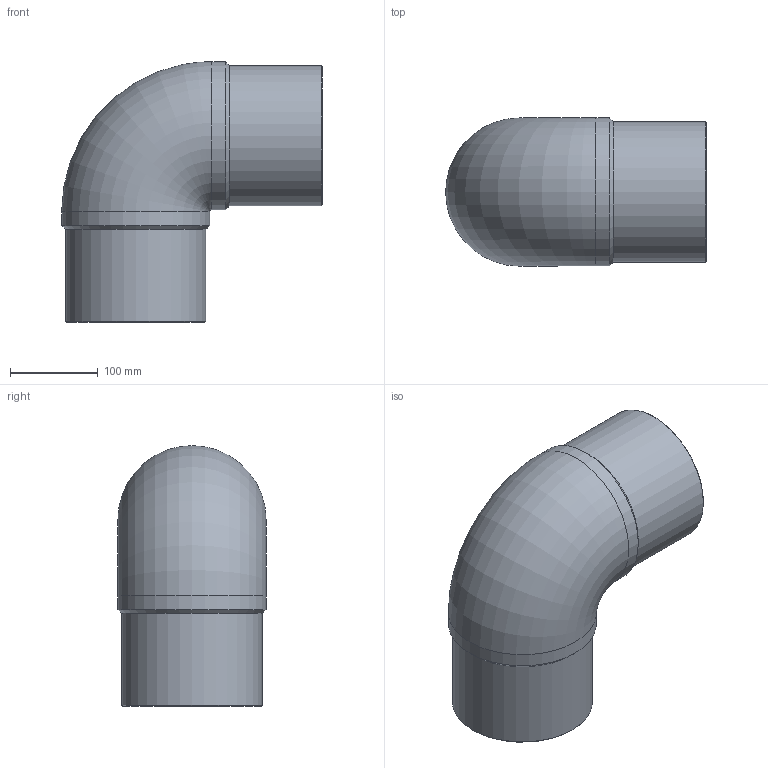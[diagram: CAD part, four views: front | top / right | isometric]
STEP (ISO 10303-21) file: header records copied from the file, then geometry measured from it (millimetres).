
FILE_DESCRIPTION(/* description */ ('Unknown'),/* implementation_level */ '2;1');
FILE_NAME(/* name */ 'G9P160H',/* time_stamp */ '2021-11-15T16:45:06+01:00',/* author */ ('Unknown'),/* organization */ ('Unknown'),/* preprocessor_version */ 'ST-DEVELOPER v16.7',/* originating_system */ 'Solid Edge',/* authorisation */ 'Unknown');
FILE_SCHEMA (('AUTOMOTIVE_DESIGN {1 0 10303 214 3 1 1}'));
Length unit declared in the file: millimetre
Products named in the file (1): G9P160H
Bounding box: 297.5 x 169 x 297.5 mm (x, y, z)
Volume: 4138523.8 mm3; surface area: 363101.7 mm2
Topology: 1 solids, 1 shells, 14 faces, 34 edges, 22 vertices
Faces by surface type: cylinder 6, cone 4, plane 2, torus 2
Full cylindrical faces by diameter (mm): 116.2 x2, 160 x2, 169 x2
Entity records: 374 total; most frequent: CARTESIAN_POINT 74, DIRECTION 60, ORIENTED_EDGE 38, AXIS2_PLACEMENT_3D 30, EDGE_LOOP 27, FACE_BOUND 27, EDGE_CURVE 19, VERTEX_POINT 18
